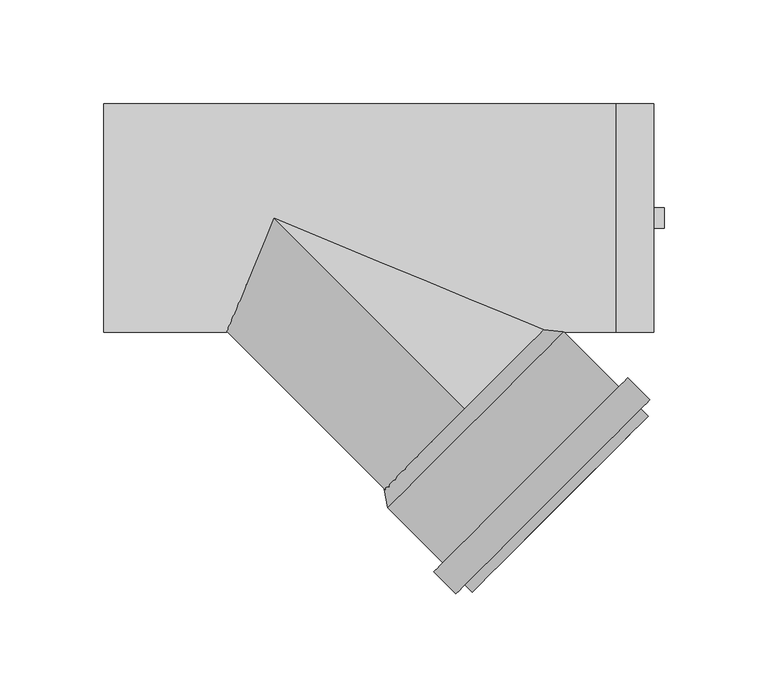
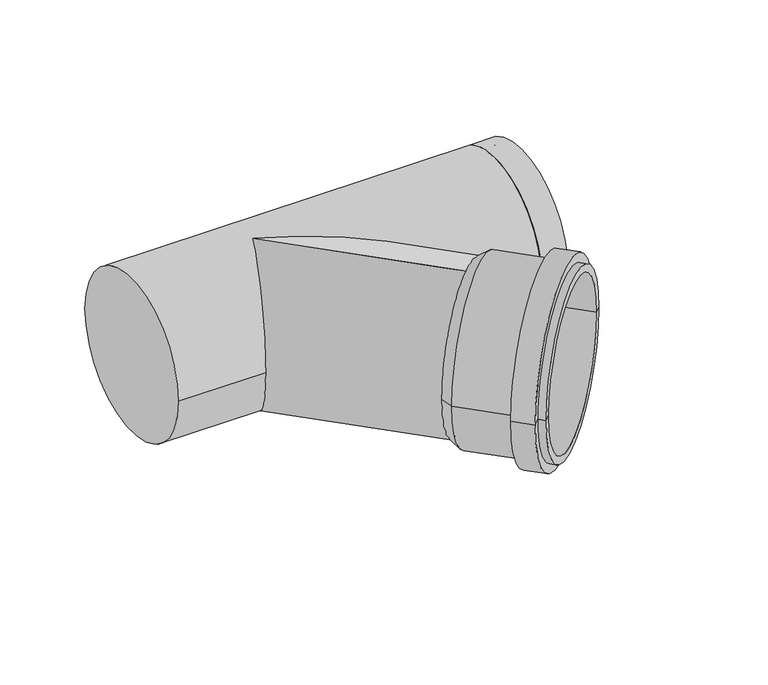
"""IFC4 building model written with IfcOpenShell, lengths in millimetres: pipe fitting geometry, AliaxisFR_Friaphon_BranchAccessPlug_FR : 110 45°."""

from ifc_helpers import new_model, si_unit, point, frame, frame_2d, origin, place, context, project, spatial, polyline, circle_curve, ellipse_curve, trimmed, segment, composite_curve, outline, extrude, source, transform, mapped, element, save
from ifc_brep_helpers import plane_surface, cylinder_surface, revolved_surface, advanced_brep


def pipe_fitting_b194771b(model_context):
    return source(origin(), model_context, "Body", "SolidModel", [
        advanced_brep(
        [(95.4594155, -180.3122292, 0.0), (180.3122292, -95.4594155, 0.0), (176.7766953, -98.9949494, 0.0), (98.9949494, -176.7766953, 0.0), (77.0746391, -170.4127343, 0.0), (170.4127343, -77.0746391, 0.0), (181.019336, -87.6812409, 0.0), (87.6812409, -181.019336, 0.0), (81.3172798, -166.1700936, 0.0), (166.1700936, -81.3172798, 0.0), (54.8007755, -139.6535893, 0.0), (139.6535893, -54.8007755, 0.0), (130.8147545, -53.0330086, 0.0), (53.0330086, -130.8147545, 0.0), (91.9238816, -176.7766953, 0.0), (176.7766953, -91.9238816, 0.0)],
        [
            (0, 1, circle_curve(frame((137.8858223, -137.8858223, 0.0), z_axis=(0.7071067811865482, -0.7071067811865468, 0.0), x_axis=(0.7071067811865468, 0.7071067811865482, 0.0)), 60.0)),
            (1, 2),
            (2, 3, circle_curve(frame((137.8858223, -137.8858223, 0.0), z_axis=(-0.7071067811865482, 0.7071067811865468, 0.0), x_axis=(0.7071067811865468, 0.7071067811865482, 0.0)), 55.0)),
            (3, 0),
            (1, 0, circle_curve(frame((137.8858223, -137.8858223, 0.0), z_axis=(0.7071067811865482, -0.7071067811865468, 0.0), x_axis=(0.7071067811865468, 0.7071067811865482, 0.0)), 60.0)),
            (3, 2, circle_curve(frame((137.8858223, -137.8858223, 0.0), z_axis=(-0.7071067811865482, 0.7071067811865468, 0.0), x_axis=(0.7071067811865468, 0.7071067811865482, 0.0)), 55.0)),
            (4, 5, circle_curve(frame((123.7436867, -123.7436867, 0.0), z_axis=(0.7071067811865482, -0.7071067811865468, 0.0), x_axis=(0.7071067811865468, 0.7071067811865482, 0.0)), 66.0)),
            (5, 6),
            (6, 7, circle_curve(frame((134.3502884, -134.3502884, 0.0), z_axis=(-0.7071067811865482, 0.7071067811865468, 0.0), x_axis=(0.7071067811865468, 0.7071067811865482, 0.0)), 66.0)),
            (7, 4),
            (5, 4, circle_curve(frame((123.7436867, -123.7436867, 0.0), z_axis=(0.7071067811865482, -0.7071067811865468, 0.0), x_axis=(0.7071067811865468, 0.7071067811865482, 0.0)), 66.0)),
            (7, 6, circle_curve(frame((134.3502884, -134.3502884, 0.0), z_axis=(-0.7071067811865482, 0.7071067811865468, 0.0), x_axis=(0.7071067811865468, 0.7071067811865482, 0.0)), 66.0)),
            (8, 9, circle_curve(frame((123.7436867, -123.7436867, 0.0), z_axis=(0.7071067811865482, -0.7071067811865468, 0.0), x_axis=(0.7071067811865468, 0.7071067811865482, 0.0)), 60.0)),
            (9, 5),
            (4, 8),
            (9, 8, circle_curve(frame((123.7436867, -123.7436867, 0.0), z_axis=(0.7071067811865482, -0.7071067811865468, 0.0), x_axis=(0.7071067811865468, 0.7071067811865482, 0.0)), 60.0)),
            (10, 11, circle_curve(frame((97.2271824, -97.2271824, 0.0), z_axis=(0.7071067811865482, -0.7071067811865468, 0.0), x_axis=(0.7071067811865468, 0.7071067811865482, 0.0)), 60.0)),
            (11, 9),
            (8, 10),
            (11, 10, circle_curve(frame((97.2271824, -97.2271824, 0.0), z_axis=(0.7071067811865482, -0.7071067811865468, 0.0), x_axis=(0.7071067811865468, 0.7071067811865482, 0.0)), 60.0)),
            (2, 12),
            (12, 13, circle_curve(frame((91.9238816, -91.9238816, 0.0), z_axis=(-0.7071067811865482, 0.7071067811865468, 0.0), x_axis=(0.7071067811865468, 0.7071067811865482, 0.0)), 55.0)),
            (13, 3),
            (13, 12, circle_curve(frame((91.9238816, -91.9238816, 0.0), z_axis=(-0.7071067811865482, 0.7071067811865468, 0.0), x_axis=(0.7071067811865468, 0.7071067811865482, 0.0)), 55.0)),
            (12, 11),
            (10, 13),
            (14, 15, circle_curve(frame((134.3502884, -134.3502884, 0.0), z_axis=(0.7071067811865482, -0.7071067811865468, 0.0), x_axis=(0.7071067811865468, 0.7071067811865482, 0.0)), 60.0)),
            (15, 1),
            (0, 14),
            (15, 14, circle_curve(frame((134.3502884, -134.3502884, 0.0), z_axis=(0.7071067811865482, -0.7071067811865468, 0.0), x_axis=(0.7071067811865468, 0.7071067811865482, 0.0)), 60.0)),
            (6, 15),
            (14, 7),
        ],
        [
            plane_surface(frame((137.8858223, -137.8858223, 0.0), z_axis=(0.7071067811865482, -0.7071067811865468, 0.0), x_axis=(0.7071067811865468, 0.7071067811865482, 0.0))),
            cylinder_surface(frame((91.9238816, -91.9238816, 0.0), z_axis=(-0.7071067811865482, 0.7071067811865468, 0.0), x_axis=(0.7071067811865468, 0.7071067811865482, 0.0)), 66.0),
            plane_surface(frame((123.7436867, -123.7436867, 0.0), z_axis=(-0.7071067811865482, 0.7071067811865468, 0.0), x_axis=(0.7071067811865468, 0.7071067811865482, 0.0))),
            cylinder_surface(frame((91.9238816, -91.9238816, 0.0), z_axis=(-0.7071067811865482, 0.7071067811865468, 0.0), x_axis=(0.7071067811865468, 0.7071067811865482, 0.0)), 60.0),
            revolved_surface(polyline([(130.81475451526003, -53.033008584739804, 0.0), (176.77669531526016, -98.99494938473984, 0.0)]), (91.9238816, -91.9238816, 0.0), (-0.7071067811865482, 0.7071067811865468, 0.0)),
            revolved_surface(polyline([(139.6535893, -54.8007755, 0.0), (130.8147545, -53.0330086, 0.0)]), (91.9238816, -91.9238816, 0.0), (-0.7071067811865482, 0.7071067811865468, 0.0)),
            plane_surface(frame((134.3502884, -134.3502884, 0.0), z_axis=(0.7071067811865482, -0.7071067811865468, 0.0), x_axis=(0.7071067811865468, 0.7071067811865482, 0.0))),
        ],
        [
            (0, [[1, 2, 3, 4]]),
            (0, [[5, -4, 6, -2]]),
            (1, [[7, 8, 9, 10]]),
            (1, [[11, -10, 12, -8]]),
            (2, [[13, 14, -7, 15]]),
            (2, [[16, -15, -11, -14]]),
            (3, [[17, 18, -13, 19]]),
            (3, [[20, -19, -16, -18]]),
            (4, [[-3, 21, 22, 23]]),
            (4, [[-6, -23, 24, -21]]),
            (5, [[-22, 25, -17, 26]]),
            (5, [[-24, -26, -20, -25]]),
            (3, [[27, 28, -1, 29]]),
            (3, [[30, -29, -5, -28]]),
            (6, [[-9, 31, -27, 32]]),
            (6, [[-12, -32, -30, -31]]),
        ],
    ),
        extrude(outline(composite_curve([segment(trimmed(circle_curve(frame_2d((0.0, 40.0)), 5.0), [point((-5.0, 40.0))], [point((5.0, 40.0))], False, "CARTESIAN"), True, "CONTINUOUS"), segment(trimmed(circle_curve(frame_2d((0.0, 40.0)), 5.0), [point((5.0, 40.0))], [point((-5.0, 40.0))], False, "CARTESIAN"), True, "CONTINUOUS")], self_intersect=False), holes=[composite_curve([segment(trimmed(circle_curve(frame_2d((0.0, 40.0)), 3.0), [point((-3.0, 40.0))], [point((3.0, 40.0))], True, "CARTESIAN"), True, "CONTINUOUS"), segment(trimmed(circle_curve(frame_2d((0.0, 40.0)), 3.0), [point((3.0, 40.0))], [point((-3.0, 40.0))], True, "CARTESIAN"), True, "CONTINUOUS")], self_intersect=False)]), frame((183.0, 0.0, 0.0), z_axis=(1.0, 0.0, 0.0), x_axis=(0.0, 1.0, 0.0)), (0.0, 0.0, 1.0), 5.0),
        extrude(outline(composite_curve([segment(trimmed(circle_curve(frame_2d((0.0, -40.0)), 5.0), [point((-5.0, -40.0))], [point((5.0, -40.0))], False, "CARTESIAN"), True, "CONTINUOUS"), segment(trimmed(circle_curve(frame_2d((0.0, -40.0)), 5.0), [point((5.0, -40.0))], [point((-5.0, -40.0))], False, "CARTESIAN"), True, "CONTINUOUS")], self_intersect=False), holes=[composite_curve([segment(trimmed(circle_curve(frame_2d((0.0, -40.0)), 3.0), [point((-3.0, -40.0))], [point((3.0, -40.0))], True, "CARTESIAN"), True, "CONTINUOUS"), segment(trimmed(circle_curve(frame_2d((0.0, -40.0)), 3.0), [point((3.0, -40.0))], [point((-3.0, -40.0))], True, "CARTESIAN"), True, "CONTINUOUS")], self_intersect=False)]), frame((183.0, 0.0, 0.0), z_axis=(1.0, 0.0, 0.0), x_axis=(0.0, 1.0, 0.0)), (0.0, 0.0, 1.0), 5.0),
        advanced_brep(
        [(183.0, -55.0, 0.0), (183.0, 55.0, 0.0), (165.0, -55.0, 0.0), (165.0, 55.0, 0.0), (165.0, -50.0, 0.0), (165.0, 50.0, 0.0), (181.125, -50.0, 0.0), (181.125, 50.0, 0.0)],
        [
            (0, 1, circle_curve(frame((183.0, 0.0, 0.0), z_axis=(1.0, 0.0, 0.0), x_axis=(0.0, 1.0, 0.0)), 55.0)),
            (1, 0, circle_curve(frame((183.0, 0.0, 0.0), z_axis=(1.0, 0.0, 0.0), x_axis=(0.0, 1.0, 0.0)), 55.0)),
            (2, 3, circle_curve(frame((165.0, 0.0, 0.0), z_axis=(-1.0, 0.0, 0.0), x_axis=(0.0, 1.0, 0.0)), 55.0)),
            (3, 2, circle_curve(frame((165.0, 0.0, 0.0), z_axis=(-1.0, 0.0, 0.0), x_axis=(0.0, 1.0, 0.0)), 55.0)),
            (4, 5, circle_curve(frame((165.0, 0.0, 0.0), z_axis=(1.0, 0.0, 0.0), x_axis=(0.0, 1.0, 0.0)), 50.0)),
            (5, 4, circle_curve(frame((165.0, 0.0, 0.0), z_axis=(1.0, 0.0, 0.0), x_axis=(0.0, 1.0, 0.0)), 50.0)),
            (0, 2),
            (3, 1),
            (6, 7, circle_curve(frame((181.125, 0.0, 0.0), z_axis=(-1.0, 0.0, 0.0), x_axis=(0.0, 1.0, 0.0)), 50.0)),
            (7, 6, circle_curve(frame((181.125, 0.0, 0.0), z_axis=(-1.0, 0.0, 0.0), x_axis=(0.0, 1.0, 0.0)), 50.0)),
            (7, 5),
            (4, 6),
        ],
        [
            plane_surface(frame((183.0, 55.0, 0.0), z_axis=(1.0, 0.0, 0.0), x_axis=(0.0, 0.0, 1.0))),
            plane_surface(frame((165.0, 55.0, 0.0), z_axis=(-1.0, 0.0, 0.0), x_axis=(0.0, 0.0, -1.0))),
            cylinder_surface(frame((165.0, 0.0, 0.0), z_axis=(1.0, 0.0, 0.0), x_axis=(0.0, 1.0, 0.0)), 55.0),
            plane_surface(frame((181.125, 50.0, 0.0), z_axis=(-1.0, 0.0, 0.0), x_axis=(0.0, 0.0, 1.0))),
            revolved_surface(polyline([(181.125, 50.0, 0.0), (165.0, 50.0, 0.0)]), (165.0, 0.0, 0.0), (1.0, 0.0, 0.0)),
        ],
        [
            (0, [[1, 2]]),
            (1, [[3, 4], [5, 6]]),
            (2, [[-1, 7, -4, 8]]),
            (2, [[-2, -8, -3, -7]]),
            (3, [[9, 10]]),
            (4, [[-10, 11, -5, 12]]),
            (4, [[-9, -12, -6, -11]]),
        ],
    ),
        advanced_brep(
        [(165.0, -55.0, 0.0), (165.0, 55.0, 0.0), (-82.0, -55.0, 0.0), (-82.0, 55.0, 0.0), (132.7817459, -55.0, 0.0), (0.0, 0.0, -55.0), (-22.7817459, -55.0, 0.0), (0.0, 0.0, 55.0), (95.4594155, -95.4594155, -55.0), (95.4594155, -95.4594155, 55.0)],
        [
            (0, 1, circle_curve(frame((165.0, 0.0, 0.0), z_axis=(1.0, 0.0, 0.0), x_axis=(0.0, 1.0, 0.0)), 55.0)),
            (1, 0, circle_curve(frame((165.0, 0.0, 0.0), z_axis=(1.0, 0.0, 0.0), x_axis=(0.0, 1.0, 0.0)), 55.0)),
            (2, 3, circle_curve(frame((-82.0, 0.0, 0.0), z_axis=(-1.0, 0.0, 0.0), x_axis=(0.0, 1.0, 0.0)), 55.0)),
            (3, 2, circle_curve(frame((-82.0, 0.0, 0.0), z_axis=(-1.0, 0.0, 0.0), x_axis=(0.0, 1.0, 0.0)), 55.0)),
            (0, 4),
            (4, 5, ellipse_curve(frame((0.0, 0.0, 0.0), z_axis=(0.3826834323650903, 0.9238795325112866, 0.0), x_axis=(0.9238795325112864, -0.3826834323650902, 0.0)), 143.7219261, 55.0)),
            (5, 6, ellipse_curve(frame((0.0, 0.0, 0.0), z_axis=(-0.9238795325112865, 0.3826834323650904, 0.0), x_axis=(0.3826834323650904, 0.9238795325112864, 0.0)), 59.531571, 55.0)),
            (6, 2),
            (3, 1),
            (6, 7, ellipse_curve(frame((0.0, 0.0, 0.0), z_axis=(-0.9238795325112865, 0.3826834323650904, 0.0), x_axis=(0.3826834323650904, 0.9238795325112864, 0.0)), 59.531571, 55.0)),
            (7, 4, ellipse_curve(frame((0.0, 0.0, 0.0), z_axis=(0.3826834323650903, 0.9238795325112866, 0.0), x_axis=(0.9238795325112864, -0.3826834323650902, 0.0)), 143.7219261, 55.0)),
            (8, 9, circle_curve(frame((95.4594155, -95.4594155, 0.0), z_axis=(0.7071067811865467, -0.7071067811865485, 0.0), x_axis=(0.0, 0.0, 1.0)), 55.0)),
            (9, 8, circle_curve(frame((95.4594155, -95.4594155, 0.0), z_axis=(0.7071067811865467, -0.7071067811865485, 0.0), x_axis=(0.0, 0.0, 1.0)), 55.0)),
            (8, 5),
            (7, 9),
        ],
        [
            plane_surface(frame((165.0, 55.0, 0.0), z_axis=(1.0, 0.0, 0.0), x_axis=(0.0, 0.0, 1.0))),
            plane_surface(frame((-82.0, 55.0, 0.0), z_axis=(-1.0, 0.0, 0.0), x_axis=(0.0, 0.0, -1.0))),
            cylinder_surface(frame((-82.0, 0.0, 0.0), z_axis=(1.0, 0.0, 0.0), x_axis=(0.0, 1.0, 0.0)), 55.0),
            plane_surface(frame((95.4594155, -95.4594155, 55.0), z_axis=(0.7071067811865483, -0.7071067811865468, 0.0), x_axis=(-0.7071067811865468, -0.7071067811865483, 0.0))),
            cylinder_surface(frame((95.4594155, -95.4594155, 0.0), z_axis=(-0.7071067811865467, 0.7071067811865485, 0.0), x_axis=(0.0, 0.0, 1.0)), 55.0),
        ],
        [
            (0, [[1, 2]]),
            (1, [[3, 4]]),
            (2, [[-1, 5, 6, 7, 8, -4, 9]]),
            (2, [[-2, -9, -3, -8, 10, 11, -5]]),
            (3, [[12, 13]]),
            (4, [[-12, 14, -6, -11, 15]]),
            (4, [[-13, -15, -10, -7, -14]]),
        ],
    ),
    ])


if __name__ == "__main__":
    model = new_model("IFC4")
    model_context = context("Model", 3, world=origin())
    ifc_project = project(units=[si_unit("LENGTHUNIT", "METRE", prefix="MILLI")], contexts=[model_context])
    site = spatial("IfcSite", under=ifc_project)
    building = spatial("IfcBuilding", under=site)
    placement = place(None, origin())
    pipe_fitting_shape = pipe_fitting_b194771b(model_context)
    element("IfcPipeFitting", 1, ObjectType="AliaxisFR_Friaphon_BranchAccessPlug_FR : 110 45°", at=placement, inside=building, context=model_context, shape_type="MappedRepresentation", body=[
        mapped(pipe_fitting_shape, transform((0.0, 0.0, 0.0), x_axis=(1.0, 0.0, 0.0), y_axis=(0.0, 1.0, 0.0), z_axis=(0.0, 0.0, 1.0))),
    ])
    save(model, "model.ifc")
